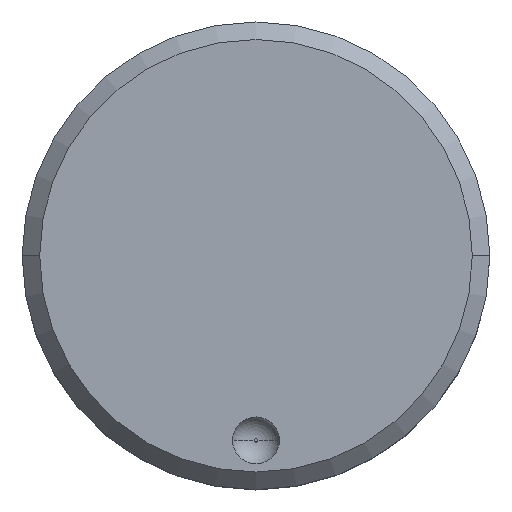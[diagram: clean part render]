
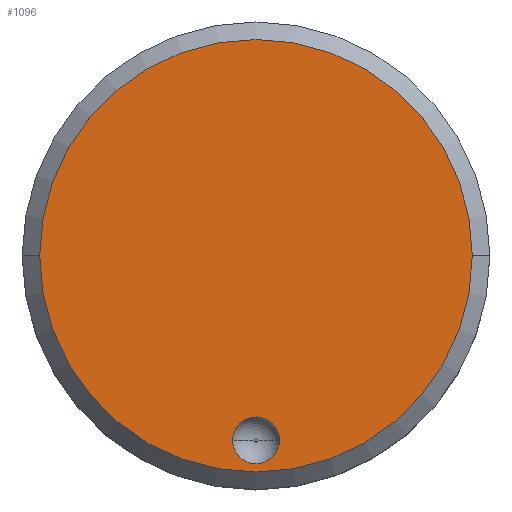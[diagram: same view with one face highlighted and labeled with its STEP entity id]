
A CAD part, top view. The second image highlights one B-rep face of the part: STEP entity #1096.
In plain terms, the highlighted planar face has unit normal (0, 0, 1).
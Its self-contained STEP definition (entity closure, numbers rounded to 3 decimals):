
#11 = FACE_OUTER_BOUND ( 'NONE', #199, .T. ) ;
#199 = EDGE_LOOP ( 'NONE', ( #1428, #1184 ) ) ;
#213 = DIRECTION ( 'NONE',  ( 0., 0., 1. ) ) ;
#313 = CIRCLE ( 'NONE', #489, 7.4 ) ;
#351 = VERTEX_POINT ( 'NONE', #1312 ) ;
#380 = EDGE_CURVE ( 'NONE', #715, #1045, #1078, .T. ) ;
#388 = DIRECTION ( 'NONE',  ( 0., 0., 1. ) ) ;
#414 = AXIS2_PLACEMENT_3D ( 'NONE', #527, #1341, #641 ) ;
#434 = CARTESIAN_POINT ( 'NONE',  ( 0., 0., 8.2 ) ) ;
#489 = AXIS2_PLACEMENT_3D ( 'NONE', #640, #1453, #750 ) ;
#527 = CARTESIAN_POINT ( 'NONE',  ( 0., 0., 8.2 ) ) ;
#553 = DIRECTION ( 'NONE',  ( 1., 0., 0. ) ) ;
#561 = EDGE_CURVE ( 'NONE', #1045, #715, #801, .T. ) ;
#597 = VERTEX_POINT ( 'NONE', #658 ) ;
#635 = ORIENTED_EDGE ( 'NONE', *, *, #561, .F. ) ;
#639 = AXIS2_PLACEMENT_3D ( 'NONE', #1094, #388, #1212 ) ;
#640 = CARTESIAN_POINT ( 'NONE',  ( 0., 0., 8.2 ) ) ;
#641 = DIRECTION ( 'NONE',  ( 1., 0., 0. ) ) ;
#658 = CARTESIAN_POINT ( 'NONE',  ( -7.4, 0., 8.2 ) ) ;
#673 = EDGE_LOOP ( 'NONE', ( #635, #765 ) ) ;
#715 = VERTEX_POINT ( 'NONE', #1013 ) ;
#750 = DIRECTION ( 'NONE',  ( 1., 0., 0. ) ) ;
#765 = ORIENTED_EDGE ( 'NONE', *, *, #380, .F. ) ;
#801 = CIRCLE ( 'NONE', #1155, 0.8 ) ;
#901 = CARTESIAN_POINT ( 'NONE',  ( 0., -6.316, 8.2 ) ) ;
#1013 = CARTESIAN_POINT ( 'NONE',  ( 0.8, -6.316, 8.2 ) ) ;
#1017 = DIRECTION ( 'NONE',  ( 1., 0., 0. ) ) ;
#1045 = VERTEX_POINT ( 'NONE', #1232 ) ;
#1064 = FACE_BOUND ( 'NONE', #673, .T. ) ;
#1078 = CIRCLE ( 'NONE', #639, 0.8 ) ;
#1094 = CARTESIAN_POINT ( 'NONE',  ( 0., -6.316, 8.2 ) ) ;
#1096 = ADVANCED_FACE ( 'NONE', ( #1064, #11 ), #1480, .T. ) ;
#1130 = AXIS2_PLACEMENT_3D ( 'NONE', #434, #1261, #553 ) ;
#1155 = AXIS2_PLACEMENT_3D ( 'NONE', #901, #213, #1017 ) ;
#1184 = ORIENTED_EDGE ( 'NONE', *, *, #1403, .T. ) ;
#1208 = CIRCLE ( 'NONE', #414, 7.4 ) ;
#1212 = DIRECTION ( 'NONE',  ( 1., 0., 0. ) ) ;
#1232 = CARTESIAN_POINT ( 'NONE',  ( -0.8, -6.316, 8.2 ) ) ;
#1261 = DIRECTION ( 'NONE',  ( 0., 0., 1. ) ) ;
#1312 = CARTESIAN_POINT ( 'NONE',  ( 7.4, 0., 8.2 ) ) ;
#1341 = DIRECTION ( 'NONE',  ( 0., 0., 1. ) ) ;
#1347 = EDGE_CURVE ( 'NONE', #597, #351, #313, .T. ) ;
#1403 = EDGE_CURVE ( 'NONE', #351, #597, #1208, .T. ) ;
#1428 = ORIENTED_EDGE ( 'NONE', *, *, #1347, .T. ) ;
#1453 = DIRECTION ( 'NONE',  ( 0., 0., 1. ) ) ;
#1480 = PLANE ( 'NONE',  #1130 ) ;
